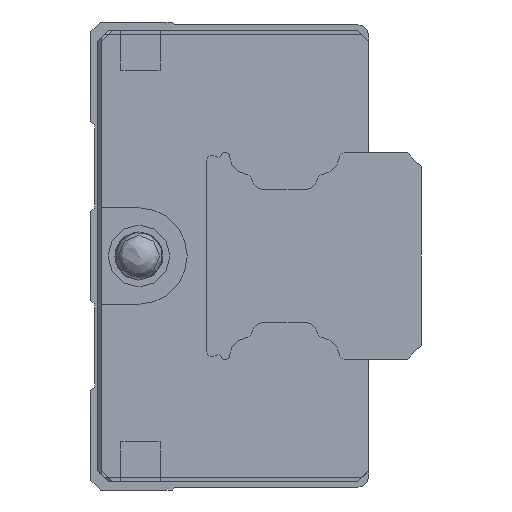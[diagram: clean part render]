
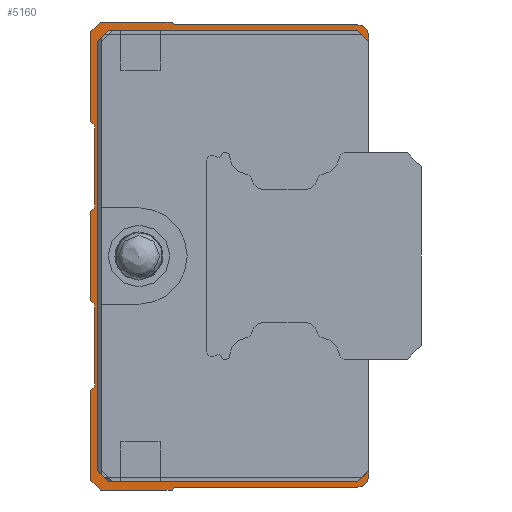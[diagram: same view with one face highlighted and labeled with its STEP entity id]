
A CAD part, left-side view. The second image highlights one B-rep face of the part: STEP entity #5160.
In plain terms, the highlighted planar face has unit normal (-1, 0, 0).
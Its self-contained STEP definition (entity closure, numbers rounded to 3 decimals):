
#67=LINE('',#7968,#383);
#76=LINE('',#7987,#392);
#83=LINE('',#8000,#399);
#109=LINE('',#8056,#425);
#117=LINE('',#8072,#433);
#123=LINE('',#8084,#439);
#148=LINE('',#8135,#464);
#153=LINE('',#8144,#469);
#155=LINE('',#8148,#471);
#159=LINE('',#8155,#475);
#163=LINE('',#8164,#479);
#166=LINE('',#8170,#482);
#170=LINE('',#8182,#486);
#174=LINE('',#8197,#490);
#178=LINE('',#8209,#494);
#181=LINE('',#8215,#497);
#184=LINE('',#8221,#500);
#187=LINE('',#8231,#503);
#190=LINE('',#8237,#506);
#194=LINE('',#8249,#510);
#198=LINE('',#8261,#514);
#201=LINE('',#8271,#517);
#204=LINE('',#8277,#520);
#208=LINE('',#8289,#524);
#212=LINE('',#8301,#528);
#215=LINE('',#8311,#531);
#383=VECTOR('',#6268,1000.);
#392=VECTOR('',#6283,1000.);
#399=VECTOR('',#6294,1000.);
#425=VECTOR('',#6334,1000.);
#433=VECTOR('',#6346,1000.);
#439=VECTOR('',#6358,1000.);
#464=VECTOR('',#6399,1000.);
#469=VECTOR('',#6406,1000.);
#471=VECTOR('',#6410,1000.);
#475=VECTOR('',#6416,1000.);
#479=VECTOR('',#6422,1000.);
#482=VECTOR('',#6427,1000.);
#486=VECTOR('',#6439,1000.);
#490=VECTOR('',#6457,1000.);
#494=VECTOR('',#6469,1000.);
#497=VECTOR('',#6474,1000.);
#500=VECTOR('',#6479,1000.);
#503=VECTOR('',#6488,1000.);
#506=VECTOR('',#6493,1000.);
#510=VECTOR('',#6505,1000.);
#514=VECTOR('',#6517,1000.);
#517=VECTOR('',#6526,1000.);
#520=VECTOR('',#6531,1000.);
#524=VECTOR('',#6543,1000.);
#528=VECTOR('',#6555,1000.);
#531=VECTOR('',#6564,1000.);
#733=PLANE('',#5588);
#1342=ORIENTED_EDGE('',*,*,#2398,.T.);
#1343=ORIENTED_EDGE('',*,*,#2405,.T.);
#1344=ORIENTED_EDGE('',*,*,#2478,.F.);
#1345=ORIENTED_EDGE('',*,*,#2500,.F.);
#1346=ORIENTED_EDGE('',*,*,#2497,.F.);
#1347=ORIENTED_EDGE('',*,*,#2494,.T.);
#1348=ORIENTED_EDGE('',*,*,#2491,.F.);
#1349=ORIENTED_EDGE('',*,*,#2488,.F.);
#1350=ORIENTED_EDGE('',*,*,#2484,.F.);
#1351=ORIENTED_EDGE('',*,*,#2562,.F.);
#1352=ORIENTED_EDGE('',*,*,#2557,.F.);
#1353=ORIENTED_EDGE('',*,*,#2554,.T.);
#1354=ORIENTED_EDGE('',*,*,#2551,.F.);
#1355=ORIENTED_EDGE('',*,*,#2548,.T.);
#1356=ORIENTED_EDGE('',*,*,#2545,.F.);
#1357=ORIENTED_EDGE('',*,*,#2542,.F.);
#1358=ORIENTED_EDGE('',*,*,#2537,.F.);
#1359=ORIENTED_EDGE('',*,*,#2534,.T.);
#1360=ORIENTED_EDGE('',*,*,#2531,.F.);
#1361=ORIENTED_EDGE('',*,*,#2528,.T.);
#1362=ORIENTED_EDGE('',*,*,#2525,.F.);
#1363=ORIENTED_EDGE('',*,*,#2522,.F.);
#1364=ORIENTED_EDGE('',*,*,#2517,.F.);
#1365=ORIENTED_EDGE('',*,*,#2514,.F.);
#1366=ORIENTED_EDGE('',*,*,#2511,.F.);
#1367=ORIENTED_EDGE('',*,*,#2508,.T.);
#1368=ORIENTED_EDGE('',*,*,#2505,.F.);
#1369=ORIENTED_EDGE('',*,*,#2502,.F.);
#1370=ORIENTED_EDGE('',*,*,#2480,.F.);
#1371=ORIENTED_EDGE('',*,*,#2440,.T.);
#1372=ORIENTED_EDGE('',*,*,#2447,.T.);
#1373=ORIENTED_EDGE('',*,*,#2432,.T.);
#1374=ORIENTED_EDGE('',*,*,#2473,.T.);
#1375=ORIENTED_EDGE('',*,*,#2388,.T.);
#2388=EDGE_CURVE('',#3047,#3046,#67,.T.);
#2398=EDGE_CURVE('',#3046,#3053,#76,.T.);
#2405=EDGE_CURVE('',#3053,#3057,#83,.T.);
#2432=EDGE_CURVE('',#3081,#3080,#109,.T.);
#2440=EDGE_CURVE('',#3087,#3086,#117,.T.);
#2447=EDGE_CURVE('',#3086,#3081,#123,.T.);
#2473=EDGE_CURVE('',#3080,#3047,#148,.T.);
#2478=EDGE_CURVE('',#3110,#3057,#153,.T.);
#2480=EDGE_CURVE('',#3087,#3112,#155,.T.);
#2484=EDGE_CURVE('',#3114,#3115,#159,.T.);
#2488=EDGE_CURVE('',#3115,#3118,#163,.T.);
#2491=EDGE_CURVE('',#3118,#3120,#166,.T.);
#2494=EDGE_CURVE('',#3122,#3120,#3543,.T.);
#2497=EDGE_CURVE('',#3122,#3124,#170,.T.);
#2500=EDGE_CURVE('',#3124,#3110,#3545,.T.);
#2502=EDGE_CURVE('',#3112,#3126,#3547,.T.);
#2505=EDGE_CURVE('',#3126,#3128,#174,.T.);
#2508=EDGE_CURVE('',#3130,#3128,#3549,.T.);
#2511=EDGE_CURVE('',#3130,#3132,#178,.T.);
#2514=EDGE_CURVE('',#3132,#3134,#181,.T.);
#2517=EDGE_CURVE('',#3134,#3136,#184,.T.);
#2522=EDGE_CURVE('',#3136,#3140,#187,.T.);
#2525=EDGE_CURVE('',#3140,#3142,#190,.T.);
#2528=EDGE_CURVE('',#3144,#3142,#3553,.T.);
#2531=EDGE_CURVE('',#3144,#3146,#194,.T.);
#2534=EDGE_CURVE('',#3148,#3146,#3555,.T.);
#2537=EDGE_CURVE('',#3148,#3150,#198,.T.);
#2542=EDGE_CURVE('',#3150,#3154,#201,.T.);
#2545=EDGE_CURVE('',#3154,#3156,#204,.T.);
#2548=EDGE_CURVE('',#3158,#3156,#3559,.T.);
#2551=EDGE_CURVE('',#3158,#3160,#208,.T.);
#2554=EDGE_CURVE('',#3162,#3160,#3561,.T.);
#2557=EDGE_CURVE('',#3162,#3164,#212,.T.);
#2562=EDGE_CURVE('',#3164,#3114,#215,.T.);
#3046=VERTEX_POINT('',#7967);
#3047=VERTEX_POINT('',#7969);
#3053=VERTEX_POINT('',#7986);
#3057=VERTEX_POINT('',#7999);
#3080=VERTEX_POINT('',#8055);
#3081=VERTEX_POINT('',#8057);
#3086=VERTEX_POINT('',#8071);
#3087=VERTEX_POINT('',#8073);
#3110=VERTEX_POINT('',#8143);
#3112=VERTEX_POINT('',#8149);
#3114=VERTEX_POINT('',#8156);
#3115=VERTEX_POINT('',#8157);
#3118=VERTEX_POINT('',#8165);
#3120=VERTEX_POINT('',#8171);
#3122=VERTEX_POINT('',#8177);
#3124=VERTEX_POINT('',#8183);
#3126=VERTEX_POINT('',#8192);
#3128=VERTEX_POINT('',#8198);
#3130=VERTEX_POINT('',#8204);
#3132=VERTEX_POINT('',#8210);
#3134=VERTEX_POINT('',#8216);
#3136=VERTEX_POINT('',#8222);
#3140=VERTEX_POINT('',#8232);
#3142=VERTEX_POINT('',#8238);
#3144=VERTEX_POINT('',#8244);
#3146=VERTEX_POINT('',#8250);
#3148=VERTEX_POINT('',#8256);
#3150=VERTEX_POINT('',#8262);
#3154=VERTEX_POINT('',#8272);
#3156=VERTEX_POINT('',#8278);
#3158=VERTEX_POINT('',#8284);
#3160=VERTEX_POINT('',#8290);
#3162=VERTEX_POINT('',#8296);
#3164=VERTEX_POINT('',#8302);
#3543=CIRCLE('',#5544,0.3);
#3545=CIRCLE('',#5548,0.8);
#3547=CIRCLE('',#5551,0.8);
#3549=CIRCLE('',#5555,0.3);
#3553=CIRCLE('',#5565,0.5);
#3555=CIRCLE('',#5569,0.5);
#3559=CIRCLE('',#5577,0.5);
#3561=CIRCLE('',#5581,0.5);
#3928=EDGE_LOOP('',(#1342,#1343,#1344,#1345,#1346,#1347,#1348,#1349,#1350,
#1351,#1352,#1353,#1354,#1355,#1356,#1357,#1358,#1359,#1360,#1361,#1362,
#1363,#1364,#1365,#1366,#1367,#1368,#1369,#1370,#1371,#1372,#1373,#1374,
#1375));
#4548=FACE_BOUND('',#3928,.T.);
#5160=ADVANCED_FACE('',(#4548),#733,.F.);
#5544=AXIS2_PLACEMENT_3D('',#8176,#6432,#6433);
#5548=AXIS2_PLACEMENT_3D('',#8188,#6444,#6445);
#5551=AXIS2_PLACEMENT_3D('',#8191,#6450,#6451);
#5555=AXIS2_PLACEMENT_3D('',#8203,#6462,#6463);
#5565=AXIS2_PLACEMENT_3D('',#8243,#6498,#6499);
#5569=AXIS2_PLACEMENT_3D('',#8255,#6510,#6511);
#5577=AXIS2_PLACEMENT_3D('',#8283,#6536,#6537);
#5581=AXIS2_PLACEMENT_3D('',#8295,#6548,#6549);
#5588=AXIS2_PLACEMENT_3D('',#8314,#6568,#6569);
#6268=DIRECTION('',(0.,-0.707,0.707));
#6283=DIRECTION('',(0.,-1.,0.));
#6294=DIRECTION('',(0.,-0.707,-0.707));
#6334=DIRECTION('',(0.,0.707,0.707));
#6346=DIRECTION('',(0.,0.707,-0.707));
#6358=DIRECTION('',(0.,1.,0.));
#6399=DIRECTION('',(0.,0.,1.));
#6406=DIRECTION('',(0.,0.,-1.));
#6410=DIRECTION('',(0.,0.,-1.));
#6416=DIRECTION('',(0.,-0.707,0.707));
#6422=DIRECTION('',(0.,-1.,0.));
#6427=DIRECTION('',(0.,-0.707,-0.707));
#6432=DIRECTION('',(1.,0.,0.));
#6433=DIRECTION('',(0.,0.,-1.));
#6439=DIRECTION('',(0.,-1.,0.));
#6444=DIRECTION('',(1.,0.,0.));
#6445=DIRECTION('',(0.,0.,-1.));
#6450=DIRECTION('',(1.,0.,0.));
#6451=DIRECTION('',(0.,0.,-1.));
#6457=DIRECTION('',(0.,1.,0.));
#6462=DIRECTION('',(1.,0.,0.));
#6463=DIRECTION('',(0.,0.,-1.));
#6469=DIRECTION('',(0.,0.707,-0.707));
#6474=DIRECTION('',(0.,1.,0.));
#6479=DIRECTION('',(0.,0.707,0.707));
#6488=DIRECTION('',(0.,0.,1.));
#6493=DIRECTION('',(0.,-0.707,0.707));
#6498=DIRECTION('',(1.,0.,0.));
#6499=DIRECTION('',(0.,0.,-1.));
#6505=DIRECTION('',(0.,0.,1.));
#6510=DIRECTION('',(1.,0.,0.));
#6511=DIRECTION('',(0.,0.,-1.));
#6517=DIRECTION('',(0.,0.707,0.707));
#6526=DIRECTION('',(0.,0.,1.));
#6531=DIRECTION('',(0.,-0.707,0.707));
#6536=DIRECTION('',(1.,0.,0.));
#6537=DIRECTION('',(0.,0.,-1.));
#6543=DIRECTION('',(0.,0.,1.));
#6548=DIRECTION('',(1.,0.,0.));
#6549=DIRECTION('',(0.,0.,-1.));
#6555=DIRECTION('',(0.,0.707,0.707));
#6564=DIRECTION('',(0.,0.,1.));
#6568=DIRECTION('',(1.,0.,0.));
#6569=DIRECTION('',(0.,0.,-1.));
#7967=CARTESIAN_POINT('',(-26.75,18.9,16.4));
#7968=CARTESIAN_POINT('',(-26.75,19.7,15.6));
#7969=CARTESIAN_POINT('',(-26.75,19.7,15.6));
#7986=CARTESIAN_POINT('',(-26.75,0.8,16.4));
#7987=CARTESIAN_POINT('',(-26.75,18.9,16.4));
#7999=CARTESIAN_POINT('',(-26.75,0.,15.6));
#8000=CARTESIAN_POINT('',(-26.75,0.8,16.4));
#8055=CARTESIAN_POINT('',(-26.75,19.7,-15.6));
#8056=CARTESIAN_POINT('',(-26.75,18.9,-16.4));
#8057=CARTESIAN_POINT('',(-26.75,18.9,-16.4));
#8071=CARTESIAN_POINT('',(-26.75,0.8,-16.4));
#8072=CARTESIAN_POINT('',(-26.75,0.,-15.6));
#8073=CARTESIAN_POINT('',(-26.75,0.,-15.6));
#8084=CARTESIAN_POINT('',(-26.75,0.8,-16.4));
#8135=CARTESIAN_POINT('',(-26.75,19.7,-15.6));
#8143=CARTESIAN_POINT('',(-26.75,0.,16.));
#8144=CARTESIAN_POINT('',(-26.75,0.,16.));
#8148=CARTESIAN_POINT('',(-26.75,0.,16.));
#8149=CARTESIAN_POINT('',(-26.75,0.,-16.));
#8155=CARTESIAN_POINT('',(-26.75,20.2,16.3));
#8156=CARTESIAN_POINT('',(-26.75,20.2,16.3));
#8157=CARTESIAN_POINT('',(-26.75,19.5,17.));
#8164=CARTESIAN_POINT('',(-26.75,19.5,17.));
#8165=CARTESIAN_POINT('',(-26.75,14.3,17.));
#8170=CARTESIAN_POINT('',(-26.75,14.3,17.));
#8171=CARTESIAN_POINT('',(-26.75,14.188,16.888));
#8176=CARTESIAN_POINT('',(-26.75,13.976,17.1));
#8177=CARTESIAN_POINT('',(-26.75,13.976,16.8));
#8182=CARTESIAN_POINT('',(-26.75,13.976,16.8));
#8183=CARTESIAN_POINT('',(-26.75,0.8,16.8));
#8188=CARTESIAN_POINT('',(-26.75,0.8,16.));
#8191=CARTESIAN_POINT('',(-26.75,0.8,-16.));
#8192=CARTESIAN_POINT('',(-26.75,0.8,-16.8));
#8197=CARTESIAN_POINT('',(-26.75,0.8,-16.8));
#8198=CARTESIAN_POINT('',(-26.75,13.976,-16.8));
#8203=CARTESIAN_POINT('',(-26.75,13.976,-17.1));
#8204=CARTESIAN_POINT('',(-26.75,14.188,-16.888));
#8209=CARTESIAN_POINT('',(-26.75,14.188,-16.888));
#8210=CARTESIAN_POINT('',(-26.75,14.3,-17.));
#8215=CARTESIAN_POINT('',(-26.75,14.3,-17.));
#8216=CARTESIAN_POINT('',(-26.75,19.5,-17.));
#8221=CARTESIAN_POINT('',(-26.75,19.5,-17.));
#8222=CARTESIAN_POINT('',(-26.75,20.2,-16.3));
#8231=CARTESIAN_POINT('',(-26.75,20.2,-16.3));
#8232=CARTESIAN_POINT('',(-26.75,20.2,-9.8));
#8237=CARTESIAN_POINT('',(-26.75,20.2,-9.8));
#8238=CARTESIAN_POINT('',(-26.75,20.046,-9.646));
#8243=CARTESIAN_POINT('',(-26.75,20.4,-9.293));
#8244=CARTESIAN_POINT('',(-26.75,19.9,-9.293));
#8249=CARTESIAN_POINT('',(-26.75,19.9,-9.293));
#8250=CARTESIAN_POINT('',(-26.75,19.9,-3.707));
#8255=CARTESIAN_POINT('',(-26.75,20.4,-3.707));
#8256=CARTESIAN_POINT('',(-26.75,20.046,-3.354));
#8261=CARTESIAN_POINT('',(-26.75,20.046,-3.354));
#8262=CARTESIAN_POINT('',(-26.75,20.2,-3.2));
#8271=CARTESIAN_POINT('',(-26.75,20.2,-3.2));
#8272=CARTESIAN_POINT('',(-26.75,20.2,3.2));
#8277=CARTESIAN_POINT('',(-26.75,20.2,3.2));
#8278=CARTESIAN_POINT('',(-26.75,20.046,3.354));
#8283=CARTESIAN_POINT('',(-26.75,20.4,3.707));
#8284=CARTESIAN_POINT('',(-26.75,19.9,3.707));
#8289=CARTESIAN_POINT('',(-26.75,19.9,3.707));
#8290=CARTESIAN_POINT('',(-26.75,19.9,9.293));
#8295=CARTESIAN_POINT('',(-26.75,20.4,9.293));
#8296=CARTESIAN_POINT('',(-26.75,20.046,9.646));
#8301=CARTESIAN_POINT('',(-26.75,20.046,9.646));
#8302=CARTESIAN_POINT('',(-26.75,20.2,9.8));
#8311=CARTESIAN_POINT('',(-26.75,20.2,9.8));
#8314=CARTESIAN_POINT('',(-26.75,13.976,17.1));
